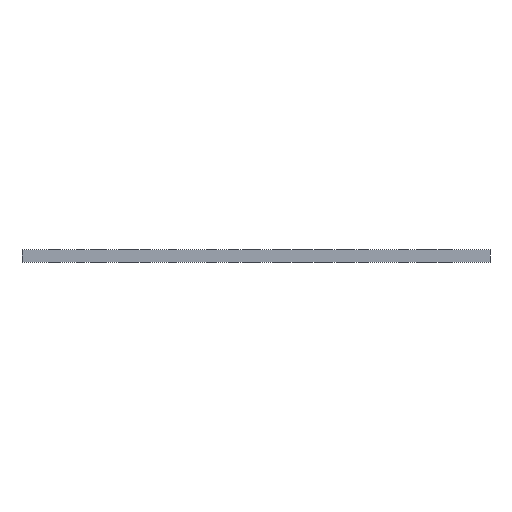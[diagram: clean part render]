
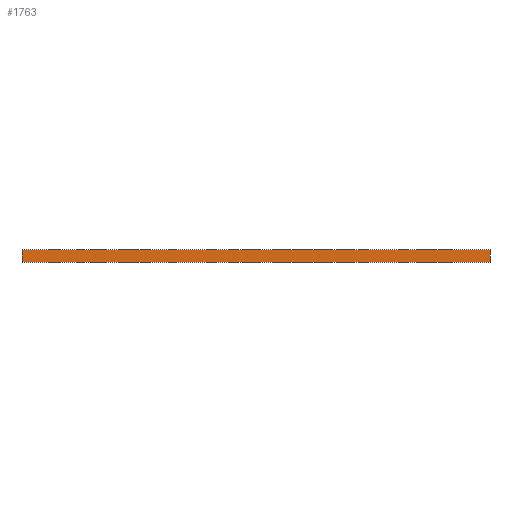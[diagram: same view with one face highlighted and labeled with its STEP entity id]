
A CAD part, front view. The second image highlights one B-rep face of the part: STEP entity #1763.
In plain terms, the highlighted planar face has unit normal (0, -1, 0).
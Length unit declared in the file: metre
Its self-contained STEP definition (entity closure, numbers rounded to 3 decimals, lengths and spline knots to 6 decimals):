
#16=LINE('',#2982,#28);
#21=LINE('',#2992,#33);
#22=LINE('',#2994,#34);
#23=LINE('',#2996,#35);
#28=VECTOR('',#2540,1.);
#33=VECTOR('',#2547,1.);
#34=VECTOR('',#2550,1.);
#35=VECTOR('',#2553,1.);
#41=PLANE('',#2031);
#394=ORIENTED_EDGE('',*,*,#575,.T.);
#395=ORIENTED_EDGE('',*,*,#568,.T.);
#396=ORIENTED_EDGE('',*,*,#574,.F.);
#397=ORIENTED_EDGE('',*,*,#573,.F.);
#568=EDGE_CURVE('',#746,#747,#16,.T.);
#573=EDGE_CURVE('',#749,#748,#21,.T.);
#574=EDGE_CURVE('',#748,#747,#22,.T.);
#575=EDGE_CURVE('',#749,#746,#23,.T.);
#746=VERTEX_POINT('',#2983);
#747=VERTEX_POINT('',#2984);
#748=VERTEX_POINT('',#2989);
#749=VERTEX_POINT('',#2991);
#1253=EDGE_LOOP('',(#394,#395,#396,#397));
#1591=FACE_BOUND('',#1253,.T.);
#1763=ADVANCED_FACE('',(#1591),#41,.T.);
#2031=AXIS2_PLACEMENT_3D('',#2997,#2554,#2555);
#2540=DIRECTION('',(-1.,0.,0.));
#2547=DIRECTION('',(-1.,0.,0.));
#2550=DIRECTION('',(0.,0.,1.));
#2553=DIRECTION('',(0.,0.,1.));
#2554=DIRECTION('',(0.,-1.,0.));
#2555=DIRECTION('',(-1.,0.,0.));
#2982=CARTESIAN_POINT('',(0.177,-0.1405,0.00151));
#2983=CARTESIAN_POINT('',(0.177,-0.1405,0.00151));
#2984=CARTESIAN_POINT('',(0.122,-0.1405,0.00151));
#2989=CARTESIAN_POINT('',(0.122,-0.1405,0.));
#2991=CARTESIAN_POINT('',(0.177,-0.1405,0.));
#2992=CARTESIAN_POINT('',(0.177,-0.1405,0.));
#2994=CARTESIAN_POINT('',(0.122,-0.1405,0.));
#2996=CARTESIAN_POINT('',(0.177,-0.1405,0.));
#2997=CARTESIAN_POINT('',(0.177,-0.1405,0.));
